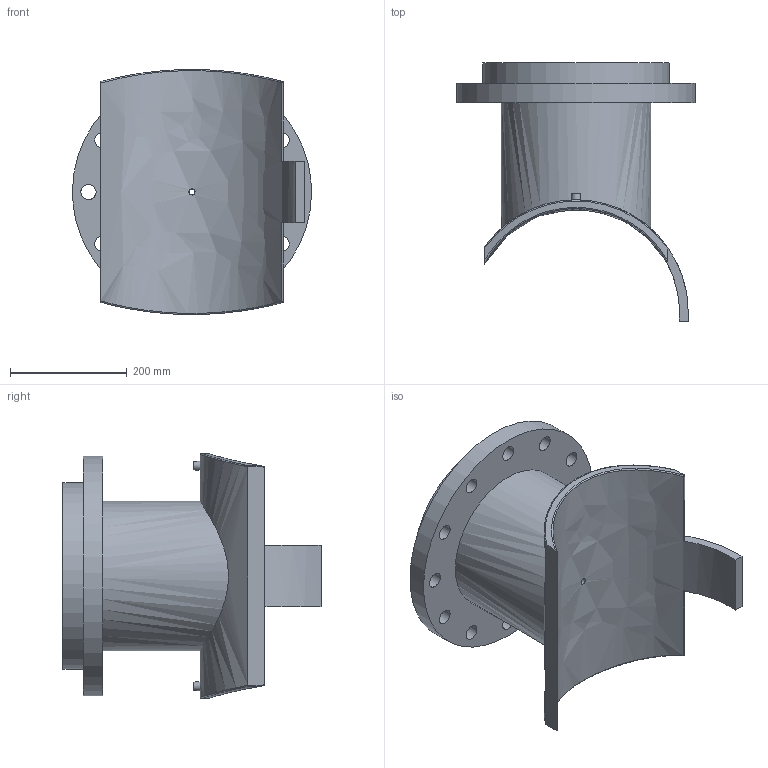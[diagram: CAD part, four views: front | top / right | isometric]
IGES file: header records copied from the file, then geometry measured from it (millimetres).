
Global section: file name: 495903355250T; native system: Autodesk Inventor 2019; preprocessor: unknown; author: KIM; date: 20240403.210326; units: millimetre
Bounding box: 409.89 x 442.5 x 419.99 mm (x, y, z)
Volume: 10717671.6 mm3; surface area: 947294.8 mm2
Topology: 1 solids, 1 shells, 63 faces, 166 edges, 128 vertices
Faces by surface type: bspline 63
